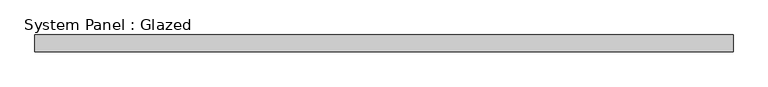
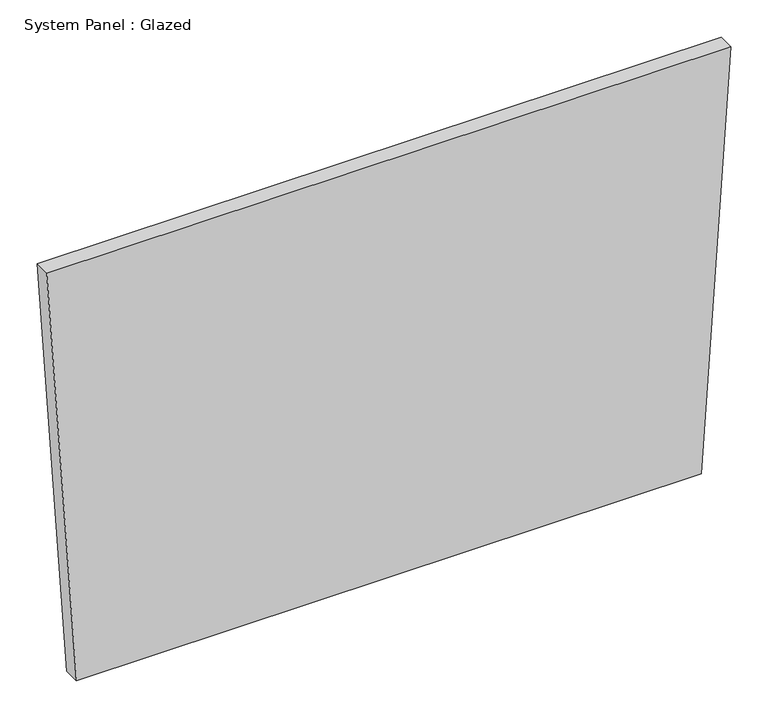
"""IFC4 building model written with IfcOpenShell, lengths in millimetres: plate geometry, System Panel : Glazed."""

from ifc_helpers import new_model, si_unit, frame, origin, place, context, project, spatial, polyline, outline, extrude, source, transform, mapped, element, save


def system_panel_glazed_79b39dd9(model_context):
    return source(origin(), model_context, "Body", "SweptSolid", [
        extrude(outline(polyline([(0.0, -485.1967731), (0.0, 485.196722), (685.1666059, 531.3201699), (685.1658473, -531.3201699), (0.0, -485.1967731)])), frame((0.0, 19.05, 0.0), z_axis=(0.0, 1.0, 0.0), x_axis=(0.0, 0.0, 1.0)), (0.0, 0.0, 1.0), 25.4),
    ])


if __name__ == "__main__":
    model = new_model("IFC4")
    model_context = context("Model", 3, world=origin())
    ifc_project = project(units=[si_unit("LENGTHUNIT", "METRE", prefix="MILLI")], contexts=[model_context])
    site = spatial("IfcSite", under=ifc_project)
    building = spatial("IfcBuilding", under=site)
    placement = place(None, origin())
    system_panel_glazed_shape = system_panel_glazed_79b39dd9(model_context)
    element("IfcPlate", 1, ObjectType="System Panel : Glazed", at=placement, inside=building, context=model_context, shape_type="MappedRepresentation", body=[
        mapped(system_panel_glazed_shape, transform((0.0, 0.0, 0.0), x_axis=(1.0, 0.0, 0.0), y_axis=(0.0, 1.0, 0.0), z_axis=(0.0, 0.0, 1.0))),
    ])
    save(model, "model.ifc")
